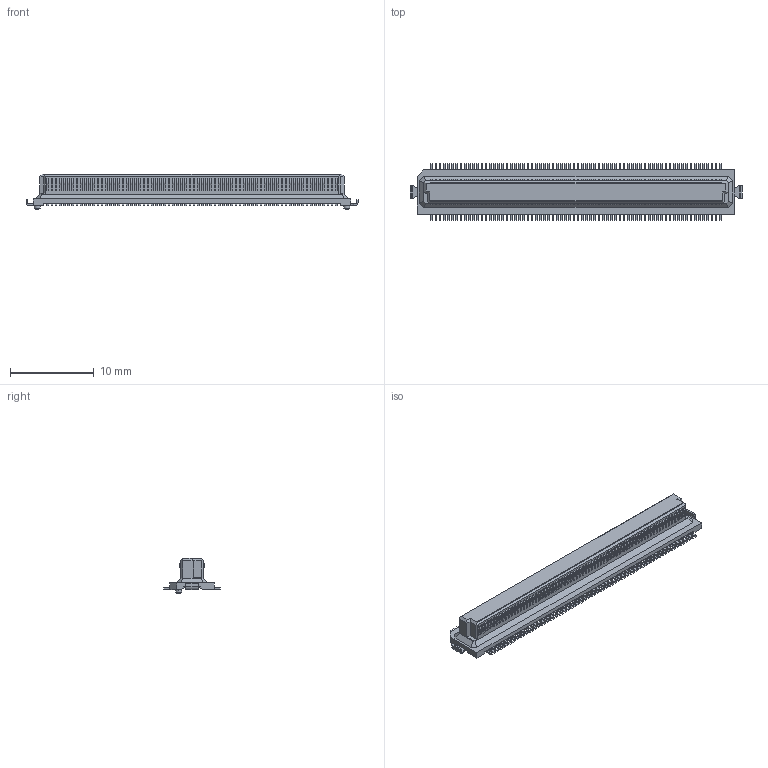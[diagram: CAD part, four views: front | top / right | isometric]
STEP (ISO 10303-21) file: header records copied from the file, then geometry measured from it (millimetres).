
FILE_DESCRIPTION(('Creo Elements/Direct Modeling STEP Export'),'2;1');
FILE_NAME('P3E150_DY11-140SB-1-T-H.stp','2022-03-01T11:15:38',(''),(''),'Creo Elements/Direct Modeling STEP processor for AP214 (Solid Model)','Creo Elements/Direct Modeling 20.4A 18-Oct-2021 (C) Parametric Technology GmbH','');
FILE_SCHEMA(('AUTOMOTIVE_DESIGN { 1 0 10303 214 1 1 1 1 }'));
Products named in the file (2): P3E150_DY11-140SB-1-T-H
Assembly tree (1 placements, depth 2):
  P3E150_DY11-140SB-1-T-H
    P3E150_DY11-140SB-1-T-H
Bounding box: 39.7 x 6.8 x 4.23 mm (x, y, z)
Volume: 410.7 mm3; surface area: 866.2 mm2
Topology: 1 solids, 1 shells, 2094 faces, 5391 edges, 3582 vertices
Faces by surface type: plane 1654, cylinder 436, cone 4
Entity records: 63078 total; most frequent: CARTESIAN_POINT 11054, ORIENTED_EDGE 10782, DIRECTION 10434, EDGE_CURVE 5391, VECTOR 4510, LINE 4510, VERTEX_POINT 3582, AXIS2_PLACEMENT_3D 2962
